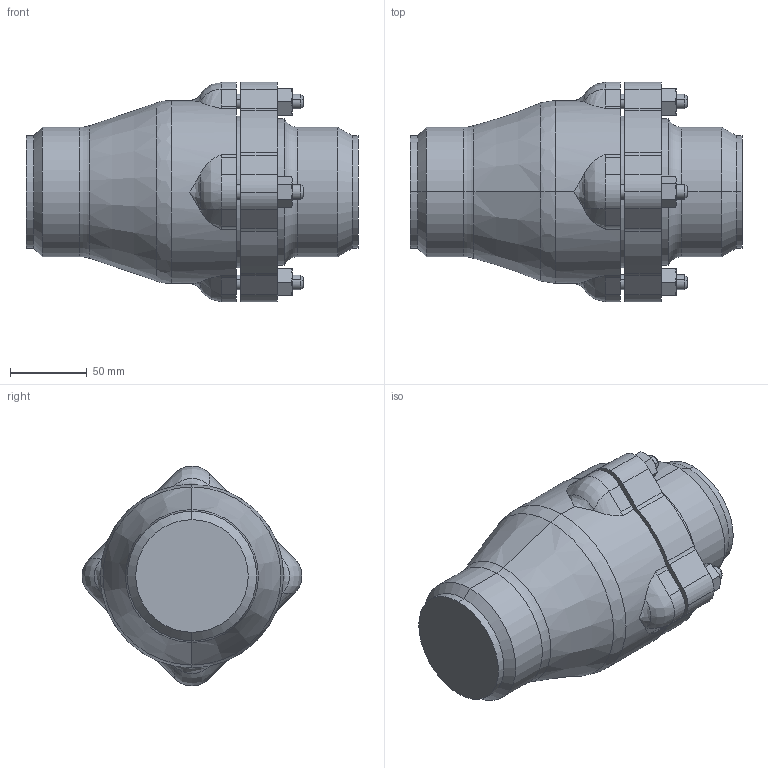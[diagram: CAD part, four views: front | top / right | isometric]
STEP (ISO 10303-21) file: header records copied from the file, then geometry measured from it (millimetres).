
FILE_DESCRIPTION (( 'STEP AP203' ), '1' );
FILE_NAME ('EXC 2.5-150 BW.step', '2016-04-26T20:34:03', ( '' ), ( '' ), 'SwSTEP 2.0', 'SolidWorks 2015', '' );
FILE_SCHEMA (( 'CONFIG_CONTROL_DESIGN' ));
Length unit declared in the file: inch
Products named in the file (1): EXC 2.5-150 BW
Bounding box: 215.65 x 142.69 x 142.75 mm (x, y, z)
Volume: 1787808.4 mm3; surface area: 98279.3 mm2
Topology: 1 solids, 1 shells, 206 faces, 493 edges, 300 vertices
Faces by surface type: cone 70, cylinder 61, plane 53, bspline 16, torus 6
Entity records: 7674 total; most frequent: CARTESIAN_POINT 2960, ORIENTED_EDGE 986, DIRECTION 953, EDGE_CURVE 493, AXIS2_PLACEMENT_3D 393, VERTEX_POINT 300, EDGE_LOOP 225, ADVANCED_FACE 206
